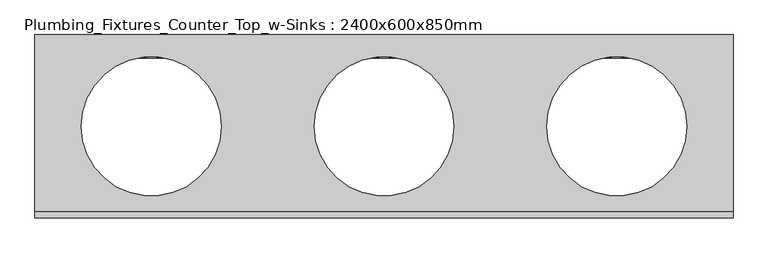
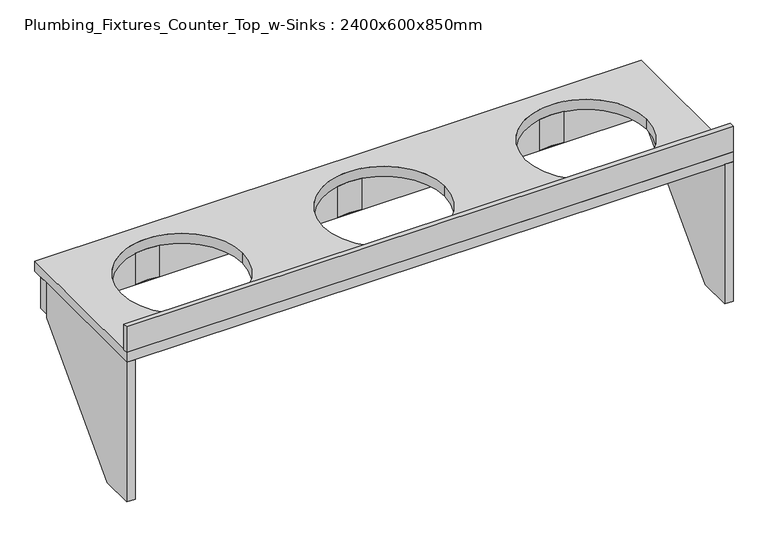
"""IFC4 building model written with IfcOpenShell, lengths in millimetres: furniture geometry, Plumbing_Fixtures_Counter_Top_w-Sinks : 2400x600x850mm."""

from ifc_helpers import new_model, si_unit, point, frame, frame_2d, origin, place, context, project, spatial, polyline, circle_curve, trimmed, segment, composite_curve, outline, extrude, source, transform, mapped, element, save
from ifc_brep_helpers import plane_surface, revolved_surface, advanced_brep


def plumbing_fixtures_counter_top_w_sinks_2400x600x850mm_820859b4(model_context):
    return source(origin(), model_context, "Body", "SolidModel", [
        extrude(outline(polyline([(69.85, 810.0), (593.65, 810.0), (593.65, 670.3), (196.85, 254.0), (69.85, 254.0), (69.85, 810.0)])), frame((-1116.1103038, 0.0, 0.0), z_axis=(1.0, 0.0, 0.0), x_axis=(0.0, 1.0, 0.0)), (0.0, 0.0, 1.0), 31.75),
        extrude(outline(polyline([(69.85, 810.0), (593.65, 810.0), (593.65, 670.3), (196.85, 254.0), (69.85, 254.0), (69.85, 810.0)])), frame((1138.1396962, 0.0, 0.0), z_axis=(1.0, 0.0, 0.0), x_axis=(0.0, 1.0, 0.0)), (0.0, 0.0, 1.0), 31.75),
        advanced_brep(
        [(-1116.1103038, 593.65, 810.0), (-1116.1103038, 631.75, 810.0), (-1116.1103038, 631.75, 685.0), (-1116.1103038, 593.65, 685.0), (1169.8896962, 593.65, 810.0), (1169.8896962, 593.65, 685.0), (1169.8896962, 631.75, 685.0), (1169.8896962, 631.75, 810.0), (-781.7098746, 593.65, 810.0), (-688.510733, 593.65, 810.0), (-19.7098746, 593.65, 810.0), (73.489267, 593.65, 810.0), (742.2901254, 593.65, 810.0), (835.489267, 593.65, 810.0), (835.489267, 593.65, 686.2), (742.2901254, 593.65, 686.2), (73.489267, 593.65, 685.8), (-19.7098746, 593.65, 685.8), (-688.510733, 593.65, 685.4), (-781.7098746, 593.65, 685.4)],
        [
            (0, 1),
            (1, 2),
            (2, 3),
            (3, 0),
            (4, 5),
            (5, 6),
            (6, 7),
            (7, 4),
            (0, 8),
            (8, 9, circle_curve(frame((-735.1103038, 369.85, 810.0), z_axis=(0.0, 0.0, -1.0), x_axis=(1.0, 0.0, 0.0)), 228.6)),
            (9, 10),
            (10, 11, circle_curve(frame((26.8896962, 369.85, 810.0), z_axis=(0.0, 0.0, -1.0), x_axis=(1.0, 0.0, 0.0)), 228.6)),
            (11, 12),
            (12, 13, circle_curve(frame((788.8896962, 369.85, 810.0), z_axis=(0.0, 0.0, -1.0), x_axis=(1.0, 0.0, 0.0)), 228.6)),
            (13, 4),
            (7, 1),
            (6, 2),
            (5, 3),
            (13, 14),
            (14, 15),
            (15, 12),
            (11, 16),
            (16, 17),
            (17, 10),
            (9, 18),
            (18, 19),
            (19, 8),
            (18, 19, circle_curve(frame((-735.1103038, 369.85, 685.4), z_axis=(0.0, 0.0, 1.0), x_axis=(1.0, 0.0, 0.0)), 228.6)),
            (14, 15, circle_curve(frame((788.8896962, 369.85, 686.2), z_axis=(0.0, 0.0, 1.0), x_axis=(1.0, 0.0, 0.0)), 228.6)),
            (16, 17, circle_curve(frame((26.8896962, 369.85, 685.8), z_axis=(0.0, 0.0, 1.0), x_axis=(1.0, 0.0, 0.0)), 228.6)),
        ],
        [
            plane_surface(frame((-1116.1103038, 631.75, 810.0), z_axis=(-1.0, 0.0, 0.0), x_axis=(0.0, 1.0, 0.0))),
            plane_surface(frame((1169.8896962, 631.75, 810.0), z_axis=(1.0, 0.0, 0.0), x_axis=(0.0, -1.0, 0.0))),
            plane_surface(frame((-1116.1103038, 593.65, 810.0), z_axis=(0.0, 0.0, 1.0), x_axis=(1.0, 0.0, 0.0))),
            plane_surface(frame((-1116.1103038, 631.75, 810.0), z_axis=(0.0, 1.0, 0.0), x_axis=(1.0, 0.0, 0.0))),
            plane_surface(frame((-1116.1103038, 631.75, 685.0), z_axis=(0.0, 0.0, -1.0), x_axis=(1.0, 0.0, 0.0))),
            plane_surface(frame((-1116.1103038, 593.65, 685.0), z_axis=(0.0, -1.0, 0.0), x_axis=(1.0, 0.0, 0.0))),
            plane_surface(frame((-506.5103038, 369.85, 685.4), z_axis=(0.0, 0.0, 1.0), x_axis=(0.0, -1.0, 0.0))),
            revolved_surface(polyline([(-506.5103038, 369.85, 810.0), (-506.5103038, 369.85, 685.4)]), (-735.1103038, 369.85, 685.4), (0.0, 0.0, 1.0)),
            plane_surface(frame((1017.4896962, 369.85, 686.2), z_axis=(0.0, 0.0, 1.0), x_axis=(0.0, -1.0, 0.0))),
            revolved_surface(polyline([(1017.4896962, 369.85, 810.0), (1017.4896962, 369.85, 686.2)]), (788.8896962, 369.85, 686.2), (0.0, 0.0, 1.0)),
            plane_surface(frame((255.4896962, 369.85, 685.8), z_axis=(0.0, 0.0, 1.0), x_axis=(0.0, -1.0, 0.0))),
            revolved_surface(polyline([(255.4896962, 369.85, 810.0), (255.4896962, 369.85, 685.8)]), (26.8896962, 369.85, 685.8), (0.0, 0.0, 1.0)),
        ],
        [
            (0, [[1, 2, 3, 4]]),
            (1, [[5, 6, 7, 8]]),
            (2, [[-1, 9, 10, 11, 12, 13, 14, 15, -8, 16]]),
            (3, [[-2, -16, -7, 17]]),
            (4, [[-3, -17, -6, 18]]),
            (5, [[-4, -18, -5, -15, 19, 20, 21, -13, 22, 23, 24, -11, 25, 26, 27, -9]]),
            (6, [[28, -26]]),
            (7, [[-28, -25, -10, -27]]),
            (8, [[29, -20]]),
            (9, [[-29, -19, -14, -21]]),
            (10, [[30, -23]]),
            (11, [[-30, -22, -12, -24]]),
        ],
    ),
        extrude(outline(polyline([(1169.8896962, 69.85), (-1116.1103038, 69.85), (-1116.1103038, 88.9), (1169.8896962, 88.9), (1169.8896962, 69.85)])), frame((0.0, 0.0, 850.0), z_axis=(0.0, 0.0, 1.0), x_axis=(1.0, 0.0, 0.0)), (0.0, 0.0, 1.0), 101.6),
        extrude(outline(polyline([(1169.8896962, 69.85), (-1116.1103038, 69.85), (-1116.1103038, 669.85), (1169.8896962, 669.85), (1169.8896962, 69.85)]), holes=[composite_curve([segment(trimmed(circle_curve(frame_2d((-735.1103038, 369.85)), 228.6), [point((-963.7103038, 369.85))], [point((-506.5103038, 369.85))], True, "CARTESIAN"), True, "CONTINUOUS"), segment(trimmed(circle_curve(frame_2d((-735.1103038, 369.85)), 228.6), [point((-506.5103038, 369.85))], [point((-963.7103038, 369.85))], True, "CARTESIAN"), True, "CONTINUOUS")], self_intersect=False), composite_curve([segment(trimmed(circle_curve(frame_2d((788.8896962, 369.85)), 228.6), [point((560.2896962, 369.85))], [point((1017.4896962, 369.85))], True, "CARTESIAN"), True, "CONTINUOUS"), segment(trimmed(circle_curve(frame_2d((788.8896962, 369.85)), 228.6), [point((1017.4896962, 369.85))], [point((560.2896962, 369.85))], True, "CARTESIAN"), True, "CONTINUOUS")], self_intersect=False), composite_curve([segment(trimmed(circle_curve(frame_2d((26.8896962, 369.85)), 228.6), [point((-201.7103038, 369.85))], [point((255.4896962, 369.85))], True, "CARTESIAN"), True, "CONTINUOUS"), segment(trimmed(circle_curve(frame_2d((26.8896962, 369.85)), 228.6), [point((255.4896962, 369.85))], [point((-201.7103038, 369.85))], True, "CARTESIAN"), True, "CONTINUOUS")], self_intersect=False)]), frame((0.0, 0.0, 810.0), z_axis=(0.0, 0.0, 1.0), x_axis=(1.0, 0.0, 0.0)), (0.0, 0.0, 1.0), 40.0),
    ])


if __name__ == "__main__":
    model = new_model("IFC4")
    model_context = context("Model", 3, world=origin())
    ifc_project = project(units=[si_unit("LENGTHUNIT", "METRE", prefix="MILLI")], contexts=[model_context])
    site = spatial("IfcSite", under=ifc_project)
    building = spatial("IfcBuilding", under=site)
    placement = place(None, origin())
    plumbing_fixtures_counter_top_w_sinks_2400x600x850mm_shape = plumbing_fixtures_counter_top_w_sinks_2400x600x850mm_820859b4(model_context)
    element("IfcFurniture", 1, ObjectType="Plumbing_Fixtures_Counter_Top_w-Sinks : 2400x600x850mm", at=placement, inside=building, context=model_context, shape_type="MappedRepresentation", body=[
        mapped(plumbing_fixtures_counter_top_w_sinks_2400x600x850mm_shape, transform((0.0, 0.0, 0.0), x_axis=(1.0, 0.0, 0.0), y_axis=(0.0, 1.0, 0.0), z_axis=(0.0, 0.0, 1.0))),
    ])
    save(model, "model.ifc")
